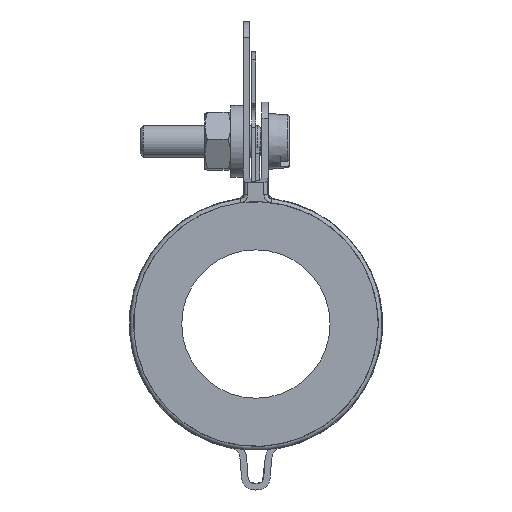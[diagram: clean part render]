
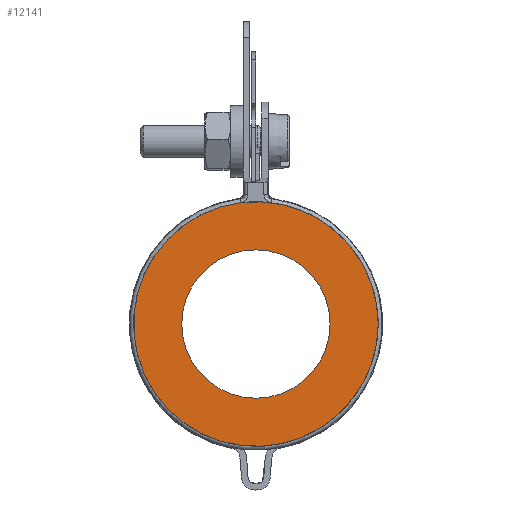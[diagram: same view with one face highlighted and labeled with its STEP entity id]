
A CAD part, front view. The second image highlights one B-rep face of the part: STEP entity #12141.
In plain terms, the highlighted planar face has unit normal (0, -1, 0).
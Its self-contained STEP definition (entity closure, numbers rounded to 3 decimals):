
#113=FACE_BOUND($,#1772,.T.);
#297=CIRCLE($,#12895,15.25);
#298=CIRCLE($,#12896,9.25);
#1052=FACE_OUTER_BOUND($,#1771,.T.);
#1771=EDGE_LOOP($,(#7601));
#1772=EDGE_LOOP($,(#7602));
#4734=VERTEX_POINT($,#17999);
#4735=VERTEX_POINT($,#18001);
#5872=EDGE_CURVE($,#4734,#4734,#297,.T.);
#5873=EDGE_CURVE($,#4735,#4735,#298,.T.);
#7601=ORIENTED_EDGE($,*,*,#5872,.T.);
#7602=ORIENTED_EDGE($,*,*,#5873,.T.);
#10896=PLANE($,#12894);
#12141=ADVANCED_FACE($,(#1052,#113),#10896,.T.);
#12894=AXIS2_PLACEMENT_3D($,#17998,#14294,#14295);
#12895=AXIS2_PLACEMENT_3D($,#18000,#14296,#14297);
#12896=AXIS2_PLACEMENT_3D($,#18002,#14298,#14299);
#14294=DIRECTION('center_axis',(0.,-1.,0.));
#14295=DIRECTION('ref_axis',(0.,0.,-1.));
#14296=DIRECTION('center_axis',(0.,-1.,0.));
#14297=DIRECTION('ref_axis',(-1.,0.,0.));
#14298=DIRECTION('center_axis',(0.,1.,0.));
#14299=DIRECTION('ref_axis',(1.,0.,0.));
#17998=CARTESIAN_POINT('Origin',(0.,0.,0.));
#17999=CARTESIAN_POINT('',(15.25,0.,0.));
#18000=CARTESIAN_POINT('Origin',(0.,0.,0.));
#18001=CARTESIAN_POINT('',(-9.25,0.,0.));
#18002=CARTESIAN_POINT('Origin',(0.,0.,0.));
